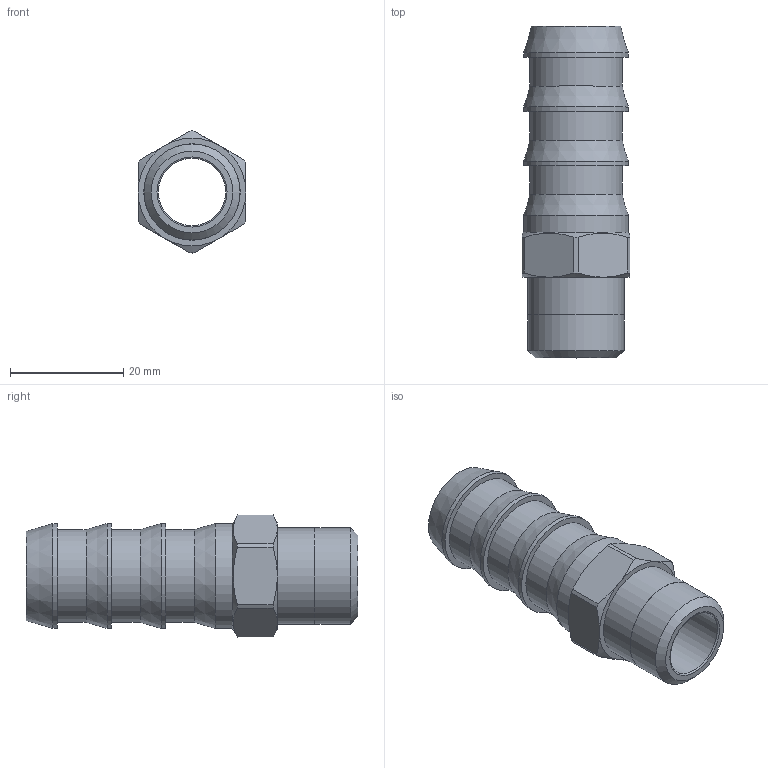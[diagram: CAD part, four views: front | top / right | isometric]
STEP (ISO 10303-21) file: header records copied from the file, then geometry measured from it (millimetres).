
FILE_DESCRIPTION(/* description */ (''),/* implementation_level */ '2;1');
FILE_NAME(/* name */ 'C:/Users/drich/Desktop/PLM-10-06 v1.step',/* time_stamp */ '2020-02-02T14:47:49-06:00',/* author */ (''),/* organization */ (''),/* preprocessor_version */ 'ST-DEVELOPER v18',/* originating_system */ 'Autodesk Translation Framework v8.12.0.6',/* authorisation */ '');
FILE_SCHEMA (('AUTOMOTIVE_DESIGN { 1 0 10303 214 3 1 1 }'));
Length unit declared in the file: inch
Products named in the file (2): PLM-10-06; 38 -06 THREAD v1
Assembly tree (1 placements, depth 2):
  PLM-10-06
    38 -06 THREAD v1
Bounding box: 19.05 x 58.72 x 21.59 mm (x, y, z)
Volume: 6442.2 mm3; surface area: 6335.8 mm2
Topology: 2 solids, 2 shells, 46 faces, 119 edges, 82 vertices
Faces by surface type: cylinder 17, plane 15, cone 13, torus 1
Full cylindrical faces by diameter (mm): 11.887 x1, 13.487 x1, 16.383 x3, 17.018 x1, 17.069 x1, 18.542 x4
Entity records: 1511 total; most frequent: CARTESIAN_POINT 286, DIRECTION 270, ORIENTED_EDGE 238, AXIS2_PLACEMENT_3D 120, EDGE_CURVE 119, VERTEX_POINT 82, CIRCLE 71, EDGE_LOOP 55
